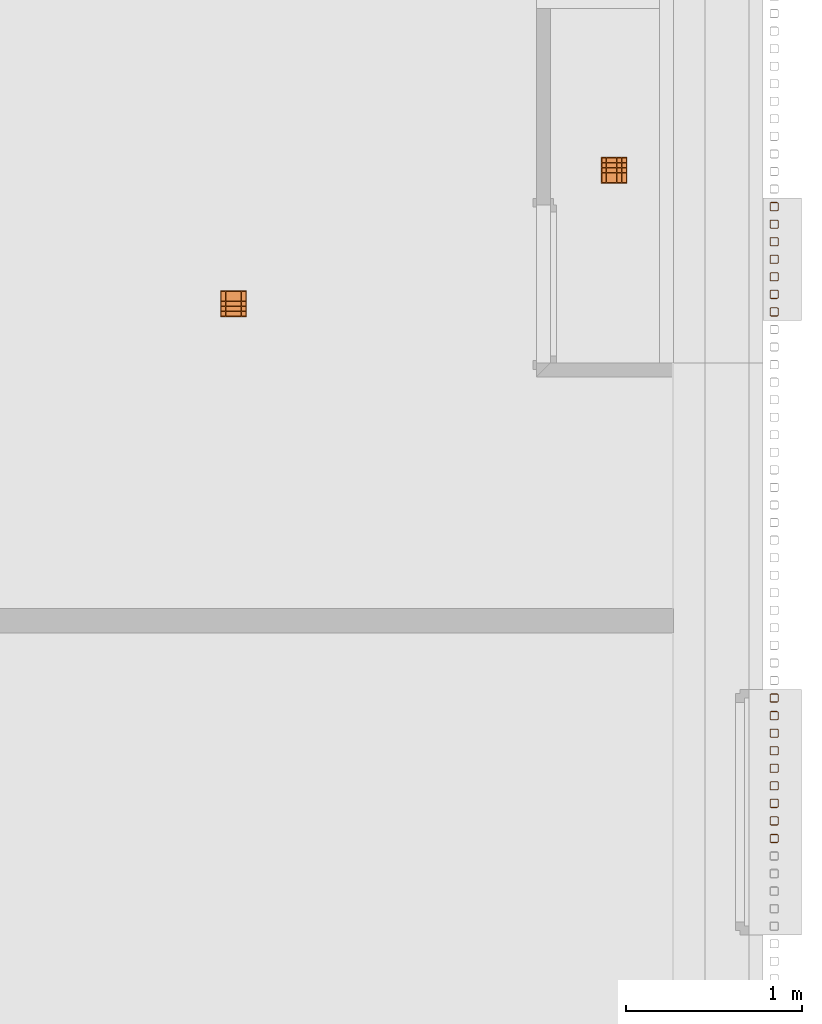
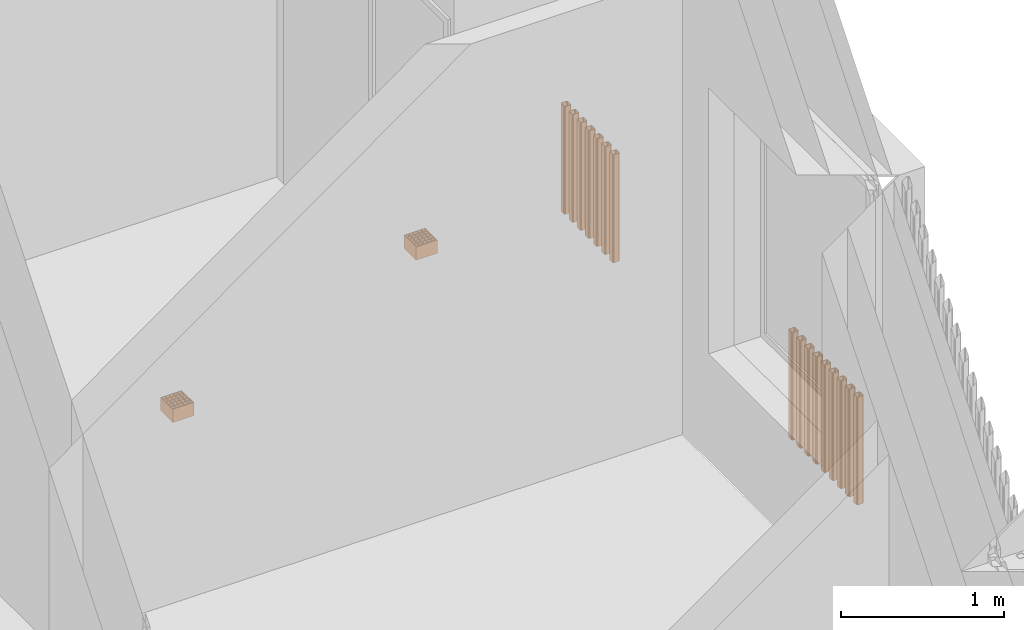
# One storey, part 100 of 112: 18 proxies.
"""IFC2X3 building model written with IfcOpenShell, lengths in millimetres."""

from ifc_helpers import new_model, entity, si_unit, converted_unit, derived_unit, money_unit, direction, frame, origin_with_axes, place, context, subcontext, project, spatial, faceted_brep, source, transform, mapped, material, type_object, element, save


model = new_model("IFC2X3")

# Units and contexts
model_context = context("Model", 3, precision=0.01, world=origin_with_axes(), true_north=direction((0.0, 1.0)))
body_context = subcontext(model_context, "Body", "Model", "MODEL_VIEW")
ifc_project = project(units=[si_unit("LENGTHUNIT", "METRE", prefix="MILLI"), si_unit("AREAUNIT", "SQUARE_METRE"), si_unit("VOLUMEUNIT", "CUBIC_METRE"), converted_unit("PLANEANGLEUNIT", "DEGREE", entity("IfcPlaneAngleMeasure", 0.0174532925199), si_unit("PLANEANGLEUNIT", "RADIAN"), dimensions=[0, 0, 0, 0, 0, 0, 0]), si_unit("SOLIDANGLEUNIT", "STERADIAN"), money_unit("EUR"), converted_unit("TIMEUNIT", "Year", entity("IfcTimeMeasure", 31556926.0), si_unit("TIMEUNIT", "SECOND"), dimensions=[0, 0, 1, 0, 0, 0, 0]), si_unit("MASSUNIT", "GRAM", prefix="KILO"), si_unit("THERMODYNAMICTEMPERATUREUNIT", "DEGREE_CELSIUS"), si_unit("LUMINOUSINTENSITYUNIT", "LUMEN"), si_unit("ENERGYUNIT", "JOULE", prefix="MEGA"), derived_unit("THERMALCONDUCTANCEUNIT", [(si_unit("POWERUNIT", "WATT"), 1), (si_unit("LENGTHUNIT", "METRE"), -1), (si_unit("THERMODYNAMICTEMPERATUREUNIT", "KELVIN"), -1)]), derived_unit("SPECIFICHEATCAPACITYUNIT", [(si_unit("ENERGYUNIT", "JOULE"), 1), (si_unit("MASSUNIT", "GRAM", prefix="KILO"), -1), (si_unit("THERMODYNAMICTEMPERATUREUNIT", "KELVIN"), -1)]), derived_unit("MASSDENSITYUNIT", [(si_unit("MASSUNIT", "GRAM", prefix="KILO"), 1), (si_unit("VOLUMEUNIT", "CUBIC_METRE"), -1)])], contexts=[model_context])

# Site, building, storey
site_placement = place(None, origin_with_axes())
site = spatial("IfcSite", under=ifc_project, at=site_placement, Name="Politse- ja Piirivalveameti ning Päästeameti ühishoone", CompositionType="ELEMENT")
building_placement = place(site_placement, origin_with_axes())
building = spatial("IfcBuilding", under=site, at=building_placement, Name="Politse- ja Piirivalveameti ning Päästeameti ühishoone", CompositionType="ELEMENT")
storey_placement = place(building_placement, origin_with_axes())
storey = spatial("IfcBuildingStorey", under=building, at=storey_placement, Name="Esimene korrus", CompositionType="ELEMENT", Elevation=0.0)

# Proxies
building_element_proxy_type_1 = type_object("IfcBuildingElementProxyType", Name="Grid 23", PredefinedType="NOTDEFINED")
shared_shape_1 = source(origin_with_axes(), body_context, "Body", "Brep", [
    faceted_brep([(0.0, 0.0, 0.0), (5.0, 5.0, 0.0), (5.0, 5.0, 100.0), (0.0, 0.0, 100.0), (0.0, 150.0, 0.0), (5.0, 145.0, 0.0), (5.0, 119.5, 0.0), (5.0, 117.5, 0.0), (5.0, 90.5, 0.0), (5.0, 88.5, 0.0), (5.0, 61.5, 0.0), (5.0, 59.5, 0.0), (5.0, 32.5, 0.0), (5.0, 30.5, 0.0), (5.0, 30.5, 100.0), (5.0, 32.5, 100.0), (5.0, 59.5, 100.0), (5.0, 61.5, 100.0), (5.0, 88.5, 100.0), (5.0, 90.5, 100.0), (5.0, 117.5, 100.0), (5.0, 119.5, 100.0), (5.0, 145.0, 100.0), (0.0, 150.0, 100.0)], [[[0, 1, 2, 3]], [[0, 4, 5, 6, 7, 8, 9, 10, 11, 12, 13, 1]], [[1, 13, 14, 2]], [[3, 2, 14, 15, 16, 17, 18, 19, 20, 21, 22, 23]], [[4, 0, 3, 23]], [[5, 4, 23, 22]], [[6, 5, 22, 21]], [[7, 6, 21, 20]], [[8, 7, 20, 19]], [[9, 8, 19, 18]], [[10, 9, 18, 17]], [[11, 10, 17, 16]], [[12, 11, 16, 15]], [[13, 12, 15, 14]]]),
    faceted_brep([(150.0, 150.0, 0.0), (145.0, 145.0, 0.0), (145.0, 145.0, 100.0), (150.0, 150.0, 100.0), (150.0, 0.0, 0.0), (145.0, 5.0, 0.0), (145.0, 30.5, 0.0), (145.0, 32.5, 0.0), (145.0, 59.5, 0.0), (145.0, 61.5, 0.0), (145.0, 88.5, 0.0), (145.0, 90.5, 0.0), (145.0, 117.5, 0.0), (145.0, 119.5, 0.0), (145.0, 119.5, 100.0), (145.0, 117.5, 100.0), (145.0, 90.5, 100.0), (145.0, 88.5, 100.0), (145.0, 61.5, 100.0), (145.0, 59.5, 100.0), (145.0, 32.5, 100.0), (145.0, 30.5, 100.0), (145.0, 5.0, 100.0), (150.0, 0.0, 100.0)], [[[0, 1, 2, 3]], [[0, 4, 5, 6, 7, 8, 9, 10, 11, 12, 13, 1]], [[1, 13, 14, 2]], [[3, 2, 14, 15, 16, 17, 18, 19, 20, 21, 22, 23]], [[4, 0, 3, 23]], [[5, 4, 23, 22]], [[6, 5, 22, 21]], [[7, 6, 21, 20]], [[8, 7, 20, 19]], [[9, 8, 19, 18]], [[10, 9, 18, 17]], [[11, 10, 17, 16]], [[12, 11, 16, 15]], [[13, 12, 15, 14]]]),
    faceted_brep([(150.0, 0.0, 0.0), (145.0, 5.0, 0.0), (145.0, 5.0, 100.0), (150.0, 0.0, 100.0), (0.0, 0.0, 0.0), (5.0, 5.0, 0.0), (30.5, 5.0, 0.0), (32.5, 5.0, 0.0), (59.5, 5.0, 0.0), (61.5, 5.0, 0.0), (88.5, 5.0, 0.0), (90.5, 5.0, 0.0), (117.5, 5.0, 0.0), (119.5, 5.0, 0.0), (119.5, 5.0, 100.0), (117.5, 5.0, 100.0), (90.5, 5.0, 100.0), (88.5, 5.0, 100.0), (61.5, 5.0, 100.0), (59.5, 5.0, 100.0), (32.5, 5.0, 100.0), (30.5, 5.0, 100.0), (5.0, 5.0, 100.0), (0.0, 0.0, 100.0)], [[[0, 1, 2, 3]], [[0, 4, 5, 6, 7, 8, 9, 10, 11, 12, 13, 1]], [[1, 13, 14, 2]], [[3, 2, 14, 15, 16, 17, 18, 19, 20, 21, 22, 23]], [[4, 0, 3, 23]], [[5, 4, 23, 22]], [[6, 5, 22, 21]], [[7, 6, 21, 20]], [[8, 7, 20, 19]], [[9, 8, 19, 18]], [[10, 9, 18, 17]], [[11, 10, 17, 16]], [[12, 11, 16, 15]], [[13, 12, 15, 14]]]),
    faceted_brep([(0.0, 150.0, 0.0), (5.0, 145.0, 0.0), (5.0, 145.0, 100.0), (0.0, 150.0, 100.0), (150.0, 150.0, 0.0), (145.0, 145.0, 0.0), (119.5, 145.0, 0.0), (117.5, 145.0, 0.0), (90.5, 145.0, 0.0), (88.5, 145.0, 0.0), (61.5, 145.0, 0.0), (59.5, 145.0, 0.0), (32.5, 145.0, 0.0), (30.5, 145.0, 0.0), (30.5, 145.0, 100.0), (32.5, 145.0, 100.0), (59.5, 145.0, 100.0), (61.5, 145.0, 100.0), (88.5, 145.0, 100.0), (90.5, 145.0, 100.0), (117.5, 145.0, 100.0), (119.5, 145.0, 100.0), (145.0, 145.0, 100.0), (150.0, 150.0, 100.0)], [[[0, 1, 2, 3]], [[0, 4, 5, 6, 7, 8, 9, 10, 11, 12, 13, 1]], [[1, 13, 14, 2]], [[3, 2, 14, 15, 16, 17, 18, 19, 20, 21, 22, 23]], [[4, 0, 3, 23]], [[5, 4, 23, 22]], [[6, 5, 22, 21]], [[7, 6, 21, 20]], [[8, 7, 20, 19]], [[9, 8, 19, 18]], [[10, 9, 18, 17]], [[11, 10, 17, 16]], [[12, 11, 16, 15]], [[13, 12, 15, 14]]]),
    faceted_brep([(30.5, 5.0, 0.0), (32.5, 5.0, 0.0), (32.5, 5.0, 100.0), (30.5, 5.0, 100.0), (30.5, 30.5, 0.0), (30.5, 32.5, 0.0), (30.5, 59.5, 0.0), (30.5, 61.5, 0.0), (30.5, 88.5, 0.0), (30.5, 90.5, 0.0), (30.5, 117.5, 0.0), (30.5, 119.5, 0.0), (30.5, 145.0, 0.0), (32.5, 145.0, 0.0), (32.5, 119.5, 0.0), (32.5, 117.5, 0.0), (32.5, 90.5, 0.0), (32.5, 88.5, 0.0), (32.5, 61.5, 0.0), (32.5, 59.5, 0.0), (32.5, 32.5, 0.0), (32.5, 30.5, 0.0), (32.5, 30.5, 100.0), (32.5, 32.5, 100.0), (32.5, 59.5, 100.0), (32.5, 61.5, 100.0), (32.5, 88.5, 100.0), (32.5, 90.5, 100.0), (32.5, 117.5, 100.0), (32.5, 119.5, 100.0), (32.5, 145.0, 100.0), (30.5, 145.0, 100.0), (30.5, 119.5, 100.0), (30.5, 117.5, 100.0), (30.5, 90.5, 100.0), (30.5, 88.5, 100.0), (30.5, 61.5, 100.0), (30.5, 59.5, 100.0), (30.5, 32.5, 100.0), (30.5, 30.5, 100.0)], [[[0, 1, 2, 3]], [[0, 4, 5, 6, 7, 8, 9, 10, 11, 12, 13, 14, 15, 16, 17, 18, 19, 20, 21, 1]], [[1, 21, 22, 2]], [[3, 2, 22, 23, 24, 25, 26, 27, 28, 29, 30, 31, 32, 33, 34, 35, 36, 37, 38, 39]], [[4, 0, 3, 39]], [[5, 4, 39, 38]], [[6, 5, 38, 37]], [[7, 6, 37, 36]], [[8, 7, 36, 35]], [[9, 8, 35, 34]], [[10, 9, 34, 33]], [[11, 10, 33, 32]], [[12, 11, 32, 31]], [[13, 12, 31, 30]], [[14, 13, 30, 29]], [[15, 14, 29, 28]], [[16, 15, 28, 27]], [[17, 16, 27, 26]], [[18, 17, 26, 25]], [[19, 18, 25, 24]], [[20, 19, 24, 23]], [[21, 20, 23, 22]]]),
    faceted_brep([(59.5, 5.0, 0.0), (61.5, 5.0, 0.0), (61.5, 5.0, 100.0), (59.5, 5.0, 100.0), (59.5, 30.5, 0.0), (59.5, 32.5, 0.0), (59.5, 59.5, 0.0), (59.5, 61.5, 0.0), (59.5, 88.5, 0.0), (59.5, 90.5, 0.0), (59.5, 117.5, 0.0), (59.5, 119.5, 0.0), (59.5, 145.0, 0.0), (61.5, 145.0, 0.0), (61.5, 119.5, 0.0), (61.5, 117.5, 0.0), (61.5, 90.5, 0.0), (61.5, 88.5, 0.0), (61.5, 61.5, 0.0), (61.5, 59.5, 0.0), (61.5, 32.5, 0.0), (61.5, 30.5, 0.0), (61.5, 30.5, 100.0), (61.5, 32.5, 100.0), (61.5, 59.5, 100.0), (61.5, 61.5, 100.0), (61.5, 88.5, 100.0), (61.5, 90.5, 100.0), (61.5, 117.5, 100.0), (61.5, 119.5, 100.0), (61.5, 145.0, 100.0), (59.5, 145.0, 100.0), (59.5, 119.5, 100.0), (59.5, 117.5, 100.0), (59.5, 90.5, 100.0), (59.5, 88.5, 100.0), (59.5, 61.5, 100.0), (59.5, 59.5, 100.0), (59.5, 32.5, 100.0), (59.5, 30.5, 100.0)], [[[0, 1, 2, 3]], [[0, 4, 5, 6, 7, 8, 9, 10, 11, 12, 13, 14, 15, 16, 17, 18, 19, 20, 21, 1]], [[1, 21, 22, 2]], [[3, 2, 22, 23, 24, 25, 26, 27, 28, 29, 30, 31, 32, 33, 34, 35, 36, 37, 38, 39]], [[4, 0, 3, 39]], [[5, 4, 39, 38]], [[6, 5, 38, 37]], [[7, 6, 37, 36]], [[8, 7, 36, 35]], [[9, 8, 35, 34]], [[10, 9, 34, 33]], [[11, 10, 33, 32]], [[12, 11, 32, 31]], [[13, 12, 31, 30]], [[14, 13, 30, 29]], [[15, 14, 29, 28]], [[16, 15, 28, 27]], [[17, 16, 27, 26]], [[18, 17, 26, 25]], [[19, 18, 25, 24]], [[20, 19, 24, 23]], [[21, 20, 23, 22]]]),
    faceted_brep([(88.5, 5.0, 0.0), (90.5, 5.0, 0.0), (90.5, 5.0, 100.0), (88.5, 5.0, 100.0), (88.5, 30.5, 0.0), (88.5, 32.5, 0.0), (88.5, 59.5, 0.0), (88.5, 61.5, 0.0), (88.5, 88.5, 0.0), (88.5, 90.5, 0.0), (88.5, 117.5, 0.0), (88.5, 119.5, 0.0), (88.5, 145.0, 0.0), (90.5, 145.0, 0.0), (90.5, 119.5, 0.0), (90.5, 117.5, 0.0), (90.5, 90.5, 0.0), (90.5, 88.5, 0.0), (90.5, 61.5, 0.0), (90.5, 59.5, 0.0), (90.5, 32.5, 0.0), (90.5, 30.5, 0.0), (90.5, 30.5, 100.0), (90.5, 32.5, 100.0), (90.5, 59.5, 100.0), (90.5, 61.5, 100.0), (90.5, 88.5, 100.0), (90.5, 90.5, 100.0), (90.5, 117.5, 100.0), (90.5, 119.5, 100.0), (90.5, 145.0, 100.0), (88.5, 145.0, 100.0), (88.5, 119.5, 100.0), (88.5, 117.5, 100.0), (88.5, 90.5, 100.0), (88.5, 88.5, 100.0), (88.5, 61.5, 100.0), (88.5, 59.5, 100.0), (88.5, 32.5, 100.0), (88.5, 30.5, 100.0)], [[[0, 1, 2, 3]], [[0, 4, 5, 6, 7, 8, 9, 10, 11, 12, 13, 14, 15, 16, 17, 18, 19, 20, 21, 1]], [[1, 21, 22, 2]], [[3, 2, 22, 23, 24, 25, 26, 27, 28, 29, 30, 31, 32, 33, 34, 35, 36, 37, 38, 39]], [[4, 0, 3, 39]], [[5, 4, 39, 38]], [[6, 5, 38, 37]], [[7, 6, 37, 36]], [[8, 7, 36, 35]], [[9, 8, 35, 34]], [[10, 9, 34, 33]], [[11, 10, 33, 32]], [[12, 11, 32, 31]], [[13, 12, 31, 30]], [[14, 13, 30, 29]], [[15, 14, 29, 28]], [[16, 15, 28, 27]], [[17, 16, 27, 26]], [[18, 17, 26, 25]], [[19, 18, 25, 24]], [[20, 19, 24, 23]], [[21, 20, 23, 22]]]),
    faceted_brep([(117.5, 5.0, 0.0), (119.5, 5.0, 0.0), (119.5, 5.0, 100.0), (117.5, 5.0, 100.0), (117.5, 30.5, 0.0), (117.5, 32.5, 0.0), (117.5, 59.5, 0.0), (117.5, 61.5, 0.0), (117.5, 88.5, 0.0), (117.5, 90.5, 0.0), (117.5, 117.5, 0.0), (117.5, 119.5, 0.0), (117.5, 145.0, 0.0), (119.5, 145.0, 0.0), (119.5, 119.5, 0.0), (119.5, 117.5, 0.0), (119.5, 90.5, 0.0), (119.5, 88.5, 0.0), (119.5, 61.5, 0.0), (119.5, 59.5, 0.0), (119.5, 32.5, 0.0), (119.5, 30.5, 0.0), (119.5, 30.5, 100.0), (119.5, 32.5, 100.0), (119.5, 59.5, 100.0), (119.5, 61.5, 100.0), (119.5, 88.5, 100.0), (119.5, 90.5, 100.0), (119.5, 117.5, 100.0), (119.5, 119.5, 100.0), (119.5, 145.0, 100.0), (117.5, 145.0, 100.0), (117.5, 119.5, 100.0), (117.5, 117.5, 100.0), (117.5, 90.5, 100.0), (117.5, 88.5, 100.0), (117.5, 61.5, 100.0), (117.5, 59.5, 100.0), (117.5, 32.5, 100.0), (117.5, 30.5, 100.0)], [[[0, 1, 2, 3]], [[0, 4, 5, 6, 7, 8, 9, 10, 11, 12, 13, 14, 15, 16, 17, 18, 19, 20, 21, 1]], [[1, 21, 22, 2]], [[3, 2, 22, 23, 24, 25, 26, 27, 28, 29, 30, 31, 32, 33, 34, 35, 36, 37, 38, 39]], [[4, 0, 3, 39]], [[5, 4, 39, 38]], [[6, 5, 38, 37]], [[7, 6, 37, 36]], [[8, 7, 36, 35]], [[9, 8, 35, 34]], [[10, 9, 34, 33]], [[11, 10, 33, 32]], [[12, 11, 32, 31]], [[13, 12, 31, 30]], [[14, 13, 30, 29]], [[15, 14, 29, 28]], [[16, 15, 28, 27]], [[17, 16, 27, 26]], [[18, 17, 26, 25]], [[19, 18, 25, 24]], [[20, 19, 24, 23]], [[21, 20, 23, 22]]]),
    faceted_brep([(30.5, 30.5, 0.0), (30.5, 32.5, 0.0), (30.5, 32.5, 100.0), (30.5, 30.5, 100.0), (5.0, 30.5, 0.0), (5.0, 32.5, 0.0), (5.0, 32.5, 100.0), (5.0, 30.5, 100.0)], [[[0, 1, 2, 3]], [[0, 4, 5, 1]], [[1, 5, 6, 2]], [[3, 2, 6, 7]], [[4, 0, 3, 7]], [[5, 4, 7, 6]]]),
    faceted_brep([(30.5, 59.5, 0.0), (30.5, 61.5, 0.0), (30.5, 61.5, 100.0), (30.5, 59.5, 100.0), (5.0, 59.5, 0.0), (5.0, 61.5, 0.0), (5.0, 61.5, 100.0), (5.0, 59.5, 100.0)], [[[0, 1, 2, 3]], [[0, 4, 5, 1]], [[1, 5, 6, 2]], [[3, 2, 6, 7]], [[4, 0, 3, 7]], [[5, 4, 7, 6]]]),
    faceted_brep([(30.5, 88.5, 0.0), (30.5, 90.5, 0.0), (30.5, 90.5, 100.0), (30.5, 88.5, 100.0), (5.0, 88.5, 0.0), (5.0, 90.5, 0.0), (5.0, 90.5, 100.0), (5.0, 88.5, 100.0)], [[[0, 1, 2, 3]], [[0, 4, 5, 1]], [[1, 5, 6, 2]], [[3, 2, 6, 7]], [[4, 0, 3, 7]], [[5, 4, 7, 6]]]),
    faceted_brep([(30.5, 117.5, 0.0), (30.5, 119.5, 0.0), (30.5, 119.5, 100.0), (30.5, 117.5, 100.0), (5.0, 117.5, 0.0), (5.0, 119.5, 0.0), (5.0, 119.5, 100.0), (5.0, 117.5, 100.0)], [[[0, 1, 2, 3]], [[0, 4, 5, 1]], [[1, 5, 6, 2]], [[3, 2, 6, 7]], [[4, 0, 3, 7]], [[5, 4, 7, 6]]]),
    faceted_brep([(59.5, 30.5, 0.0), (59.5, 32.5, 0.0), (59.5, 32.5, 100.0), (59.5, 30.5, 100.0), (32.5, 30.5, 0.0), (32.5, 32.5, 0.0), (32.5, 32.5, 100.0), (32.5, 30.5, 100.0)], [[[0, 1, 2, 3]], [[0, 4, 5, 1]], [[1, 5, 6, 2]], [[3, 2, 6, 7]], [[4, 0, 3, 7]], [[5, 4, 7, 6]]]),
    faceted_brep([(59.5, 59.5, 0.0), (59.5, 61.5, 0.0), (59.5, 61.5, 100.0), (59.5, 59.5, 100.0), (32.5, 59.5, 0.0), (32.5, 61.5, 0.0), (32.5, 61.5, 100.0), (32.5, 59.5, 100.0)], [[[0, 1, 2, 3]], [[0, 4, 5, 1]], [[1, 5, 6, 2]], [[3, 2, 6, 7]], [[4, 0, 3, 7]], [[5, 4, 7, 6]]]),
    faceted_brep([(59.5, 88.5, 0.0), (59.5, 90.5, 0.0), (59.5, 90.5, 100.0), (59.5, 88.5, 100.0), (32.5, 88.5, 0.0), (32.5, 90.5, 0.0), (32.5, 90.5, 100.0), (32.5, 88.5, 100.0)], [[[0, 1, 2, 3]], [[0, 4, 5, 1]], [[1, 5, 6, 2]], [[3, 2, 6, 7]], [[4, 0, 3, 7]], [[5, 4, 7, 6]]]),
    faceted_brep([(59.5, 117.5, 0.0), (59.5, 119.5, 0.0), (59.5, 119.5, 100.0), (59.5, 117.5, 100.0), (32.5, 117.5, 0.0), (32.5, 119.5, 0.0), (32.5, 119.5, 100.0), (32.5, 117.5, 100.0)], [[[0, 1, 2, 3]], [[0, 4, 5, 1]], [[1, 5, 6, 2]], [[3, 2, 6, 7]], [[4, 0, 3, 7]], [[5, 4, 7, 6]]]),
    faceted_brep([(88.5, 30.5, 0.0), (88.5, 32.5, 0.0), (88.5, 32.5, 100.0), (88.5, 30.5, 100.0), (61.5, 30.5, 0.0), (61.5, 32.5, 0.0), (61.5, 32.5, 100.0), (61.5, 30.5, 100.0)], [[[0, 1, 2, 3]], [[0, 4, 5, 1]], [[1, 5, 6, 2]], [[3, 2, 6, 7]], [[4, 0, 3, 7]], [[5, 4, 7, 6]]]),
    faceted_brep([(88.5, 59.5, 0.0), (88.5, 61.5, 0.0), (88.5, 61.5, 100.0), (88.5, 59.5, 100.0), (61.5, 59.5, 0.0), (61.5, 61.5, 0.0), (61.5, 61.5, 100.0), (61.5, 59.5, 100.0)], [[[0, 1, 2, 3]], [[0, 4, 5, 1]], [[1, 5, 6, 2]], [[3, 2, 6, 7]], [[4, 0, 3, 7]], [[5, 4, 7, 6]]]),
    faceted_brep([(88.5, 88.5, 0.0), (88.5, 90.5, 0.0), (88.5, 90.5, 100.0), (88.5, 88.5, 100.0), (61.5, 88.5, 0.0), (61.5, 90.5, 0.0), (61.5, 90.5, 100.0), (61.5, 88.5, 100.0)], [[[0, 1, 2, 3]], [[0, 4, 5, 1]], [[1, 5, 6, 2]], [[3, 2, 6, 7]], [[4, 0, 3, 7]], [[5, 4, 7, 6]]]),
    faceted_brep([(88.5, 117.5, 0.0), (88.5, 119.5, 0.0), (88.5, 119.5, 100.0), (88.5, 117.5, 100.0), (61.5, 117.5, 0.0), (61.5, 119.5, 0.0), (61.5, 119.5, 100.0), (61.5, 117.5, 100.0)], [[[0, 1, 2, 3]], [[0, 4, 5, 1]], [[1, 5, 6, 2]], [[3, 2, 6, 7]], [[4, 0, 3, 7]], [[5, 4, 7, 6]]]),
    faceted_brep([(117.5, 30.5, 0.0), (117.5, 32.5, 0.0), (117.5, 32.5, 100.0), (117.5, 30.5, 100.0), (90.5, 30.5, 0.0), (90.5, 32.5, 0.0), (90.5, 32.5, 100.0), (90.5, 30.5, 100.0)], [[[0, 1, 2, 3]], [[0, 4, 5, 1]], [[1, 5, 6, 2]], [[3, 2, 6, 7]], [[4, 0, 3, 7]], [[5, 4, 7, 6]]]),
    faceted_brep([(117.5, 59.5, 0.0), (117.5, 61.5, 0.0), (117.5, 61.5, 100.0), (117.5, 59.5, 100.0), (90.5, 59.5, 0.0), (90.5, 61.5, 0.0), (90.5, 61.5, 100.0), (90.5, 59.5, 100.0)], [[[0, 1, 2, 3]], [[0, 4, 5, 1]], [[1, 5, 6, 2]], [[3, 2, 6, 7]], [[4, 0, 3, 7]], [[5, 4, 7, 6]]]),
    faceted_brep([(117.5, 88.5, 0.0), (117.5, 90.5, 0.0), (117.5, 90.5, 100.0), (117.5, 88.5, 100.0), (90.5, 88.5, 0.0), (90.5, 90.5, 0.0), (90.5, 90.5, 100.0), (90.5, 88.5, 100.0)], [[[0, 1, 2, 3]], [[0, 4, 5, 1]], [[1, 5, 6, 2]], [[3, 2, 6, 7]], [[4, 0, 3, 7]], [[5, 4, 7, 6]]]),
    faceted_brep([(117.5, 117.5, 0.0), (117.5, 119.5, 0.0), (117.5, 119.5, 100.0), (117.5, 117.5, 100.0), (90.5, 117.5, 0.0), (90.5, 119.5, 0.0), (90.5, 119.5, 100.0), (90.5, 117.5, 100.0)], [[[0, 1, 2, 3]], [[0, 4, 5, 1]], [[1, 5, 6, 2]], [[3, 2, 6, 7]], [[4, 0, 3, 7]], [[5, 4, 7, 6]]]),
    faceted_brep([(145.0, 30.5, 0.0), (145.0, 32.5, 0.0), (145.0, 32.5, 100.0), (145.0, 30.5, 100.0), (119.5, 30.5, 0.0), (119.5, 32.5, 0.0), (119.5, 32.5, 100.0), (119.5, 30.5, 100.0)], [[[0, 1, 2, 3]], [[0, 4, 5, 1]], [[1, 5, 6, 2]], [[3, 2, 6, 7]], [[4, 0, 3, 7]], [[5, 4, 7, 6]]]),
    faceted_brep([(145.0, 59.5, 0.0), (145.0, 61.5, 0.0), (145.0, 61.5, 100.0), (145.0, 59.5, 100.0), (119.5, 59.5, 0.0), (119.5, 61.5, 0.0), (119.5, 61.5, 100.0), (119.5, 59.5, 100.0)], [[[0, 1, 2, 3]], [[0, 4, 5, 1]], [[1, 5, 6, 2]], [[3, 2, 6, 7]], [[4, 0, 3, 7]], [[5, 4, 7, 6]]]),
    faceted_brep([(145.0, 88.5, 0.0), (145.0, 90.5, 0.0), (145.0, 90.5, 100.0), (145.0, 88.5, 100.0), (119.5, 88.5, 0.0), (119.5, 90.5, 0.0), (119.5, 90.5, 100.0), (119.5, 88.5, 100.0)], [[[0, 1, 2, 3]], [[0, 4, 5, 1]], [[1, 5, 6, 2]], [[3, 2, 6, 7]], [[4, 0, 3, 7]], [[5, 4, 7, 6]]]),
    faceted_brep([(145.0, 117.5, 0.0), (145.0, 119.5, 0.0), (145.0, 119.5, 100.0), (145.0, 117.5, 100.0), (119.5, 117.5, 0.0), (119.5, 119.5, 0.0), (119.5, 119.5, 100.0), (119.5, 117.5, 100.0)], [[[0, 1, 2, 3]], [[0, 4, 5, 1]], [[1, 5, 6, 2]], [[3, 2, 6, 7]], [[4, 0, 3, 7]], [[5, 4, 7, 6]]]),
    faceted_brep([(5.0, 5.0, 43.65), (30.5, 5.0, 43.65), (30.5, 5.0, 56.35), (5.0, 5.0, 56.35), (5.0, 30.5, 43.65), (30.5, 30.5, 43.65), (30.5, 30.5, 56.35), (5.0, 30.5, 56.35)], [[[0, 1, 2, 3]], [[0, 4, 5, 1]], [[1, 5, 6, 2]], [[3, 2, 6, 7]], [[4, 0, 3, 7]], [[5, 4, 7, 6]]]),
    faceted_brep([(5.0, 32.5, 43.65), (30.5, 32.5, 43.65), (30.5, 32.5, 56.35), (5.0, 32.5, 56.35), (5.0, 59.5, 43.65), (30.5, 59.5, 43.65), (30.5, 59.5, 56.35), (5.0, 59.5, 56.35)], [[[0, 1, 2, 3]], [[0, 4, 5, 1]], [[1, 5, 6, 2]], [[3, 2, 6, 7]], [[4, 0, 3, 7]], [[5, 4, 7, 6]]]),
    faceted_brep([(5.0, 61.5, 43.65), (30.5, 61.5, 43.65), (30.5, 61.5, 56.35), (5.0, 61.5, 56.35), (5.0, 88.5, 43.65), (30.5, 88.5, 43.65), (30.5, 88.5, 56.35), (5.0, 88.5, 56.35)], [[[0, 1, 2, 3]], [[0, 4, 5, 1]], [[1, 5, 6, 2]], [[3, 2, 6, 7]], [[4, 0, 3, 7]], [[5, 4, 7, 6]]]),
    faceted_brep([(5.0, 90.5, 43.65), (30.5, 90.5, 43.65), (30.5, 90.5, 56.35), (5.0, 90.5, 56.35), (5.0, 117.5, 43.65), (30.5, 117.5, 43.65), (30.5, 117.5, 56.35), (5.0, 117.5, 56.35)], [[[0, 1, 2, 3]], [[0, 4, 5, 1]], [[1, 5, 6, 2]], [[3, 2, 6, 7]], [[4, 0, 3, 7]], [[5, 4, 7, 6]]]),
    faceted_brep([(5.0, 119.5, 43.65), (30.5, 119.5, 43.65), (30.5, 119.5, 56.35), (5.0, 119.5, 56.35), (5.0, 145.0, 43.65), (30.5, 145.0, 43.65), (30.5, 145.0, 56.35), (5.0, 145.0, 56.35)], [[[0, 1, 2, 3]], [[0, 4, 5, 1]], [[1, 5, 6, 2]], [[3, 2, 6, 7]], [[4, 0, 3, 7]], [[5, 4, 7, 6]]]),
    faceted_brep([(32.5, 5.0, 43.65), (59.5, 5.0, 43.65), (59.5, 5.0, 56.35), (32.5, 5.0, 56.35), (32.5, 30.5, 43.65), (59.5, 30.5, 43.65), (59.5, 30.5, 56.35), (32.5, 30.5, 56.35)], [[[0, 1, 2, 3]], [[0, 4, 5, 1]], [[1, 5, 6, 2]], [[3, 2, 6, 7]], [[4, 0, 3, 7]], [[5, 4, 7, 6]]]),
    faceted_brep([(32.5, 32.5, 43.65), (59.5, 32.5, 43.65), (59.5, 32.5, 56.35), (32.5, 32.5, 56.35), (32.5, 59.5, 43.65), (59.5, 59.5, 43.65), (59.5, 59.5, 56.35), (32.5, 59.5, 56.35)], [[[0, 1, 2, 3]], [[0, 4, 5, 1]], [[1, 5, 6, 2]], [[3, 2, 6, 7]], [[4, 0, 3, 7]], [[5, 4, 7, 6]]]),
    faceted_brep([(32.5, 61.5, 43.65), (59.5, 61.5, 43.65), (59.5, 61.5, 56.35), (32.5, 61.5, 56.35), (32.5, 88.5, 43.65), (59.5, 88.5, 43.65), (59.5, 88.5, 56.35), (32.5, 88.5, 56.35)], [[[0, 1, 2, 3]], [[0, 4, 5, 1]], [[1, 5, 6, 2]], [[3, 2, 6, 7]], [[4, 0, 3, 7]], [[5, 4, 7, 6]]]),
    faceted_brep([(32.5, 90.5, 43.65), (59.5, 90.5, 43.65), (59.5, 90.5, 56.35), (32.5, 90.5, 56.35), (32.5, 117.5, 43.65), (59.5, 117.5, 43.65), (59.5, 117.5, 56.35), (32.5, 117.5, 56.35)], [[[0, 1, 2, 3]], [[0, 4, 5, 1]], [[1, 5, 6, 2]], [[3, 2, 6, 7]], [[4, 0, 3, 7]], [[5, 4, 7, 6]]]),
    faceted_brep([(32.5, 119.5, 43.65), (59.5, 119.5, 43.65), (59.5, 119.5, 56.35), (32.5, 119.5, 56.35), (32.5, 145.0, 43.65), (59.5, 145.0, 43.65), (59.5, 145.0, 56.35), (32.5, 145.0, 56.35)], [[[0, 1, 2, 3]], [[0, 4, 5, 1]], [[1, 5, 6, 2]], [[3, 2, 6, 7]], [[4, 0, 3, 7]], [[5, 4, 7, 6]]]),
    faceted_brep([(61.5, 5.0, 43.65), (88.5, 5.0, 43.65), (88.5, 5.0, 56.35), (61.5, 5.0, 56.35), (61.5, 30.5, 43.65), (88.5, 30.5, 43.65), (88.5, 30.5, 56.35), (61.5, 30.5, 56.35)], [[[0, 1, 2, 3]], [[0, 4, 5, 1]], [[1, 5, 6, 2]], [[3, 2, 6, 7]], [[4, 0, 3, 7]], [[5, 4, 7, 6]]]),
    faceted_brep([(61.5, 32.5, 43.65), (88.5, 32.5, 43.65), (88.5, 32.5, 56.35), (61.5, 32.5, 56.35), (61.5, 59.5, 43.65), (88.5, 59.5, 43.65), (88.5, 59.5, 56.35), (61.5, 59.5, 56.35)], [[[0, 1, 2, 3]], [[0, 4, 5, 1]], [[1, 5, 6, 2]], [[3, 2, 6, 7]], [[4, 0, 3, 7]], [[5, 4, 7, 6]]]),
    faceted_brep([(61.5, 61.5, 43.65), (88.5, 61.5, 43.65), (88.5, 61.5, 56.35), (61.5, 61.5, 56.35), (61.5, 88.5, 43.65), (88.5, 88.5, 43.65), (88.5, 88.5, 56.35), (61.5, 88.5, 56.35)], [[[0, 1, 2, 3]], [[0, 4, 5, 1]], [[1, 5, 6, 2]], [[3, 2, 6, 7]], [[4, 0, 3, 7]], [[5, 4, 7, 6]]]),
    faceted_brep([(61.5, 90.5, 43.65), (88.5, 90.5, 43.65), (88.5, 90.5, 56.35), (61.5, 90.5, 56.35), (61.5, 117.5, 43.65), (88.5, 117.5, 43.65), (88.5, 117.5, 56.35), (61.5, 117.5, 56.35)], [[[0, 1, 2, 3]], [[0, 4, 5, 1]], [[1, 5, 6, 2]], [[3, 2, 6, 7]], [[4, 0, 3, 7]], [[5, 4, 7, 6]]]),
    faceted_brep([(61.5, 119.5, 43.65), (88.5, 119.5, 43.65), (88.5, 119.5, 56.35), (61.5, 119.5, 56.35), (61.5, 145.0, 43.65), (88.5, 145.0, 43.65), (88.5, 145.0, 56.35), (61.5, 145.0, 56.35)], [[[0, 1, 2, 3]], [[0, 4, 5, 1]], [[1, 5, 6, 2]], [[3, 2, 6, 7]], [[4, 0, 3, 7]], [[5, 4, 7, 6]]]),
    faceted_brep([(90.5, 5.0, 43.65), (117.5, 5.0, 43.65), (117.5, 5.0, 56.35), (90.5, 5.0, 56.35), (90.5, 30.5, 43.65), (117.5, 30.5, 43.65), (117.5, 30.5, 56.35), (90.5, 30.5, 56.35)], [[[0, 1, 2, 3]], [[0, 4, 5, 1]], [[1, 5, 6, 2]], [[3, 2, 6, 7]], [[4, 0, 3, 7]], [[5, 4, 7, 6]]]),
    faceted_brep([(90.5, 32.5, 43.65), (117.5, 32.5, 43.65), (117.5, 32.5, 56.35), (90.5, 32.5, 56.35), (90.5, 59.5, 43.65), (117.5, 59.5, 43.65), (117.5, 59.5, 56.35), (90.5, 59.5, 56.35)], [[[0, 1, 2, 3]], [[0, 4, 5, 1]], [[1, 5, 6, 2]], [[3, 2, 6, 7]], [[4, 0, 3, 7]], [[5, 4, 7, 6]]]),
    faceted_brep([(90.5, 61.5, 43.65), (117.5, 61.5, 43.65), (117.5, 61.5, 56.35), (90.5, 61.5, 56.35), (90.5, 88.5, 43.65), (117.5, 88.5, 43.65), (117.5, 88.5, 56.35), (90.5, 88.5, 56.35)], [[[0, 1, 2, 3]], [[0, 4, 5, 1]], [[1, 5, 6, 2]], [[3, 2, 6, 7]], [[4, 0, 3, 7]], [[5, 4, 7, 6]]]),
    faceted_brep([(90.5, 90.5, 43.65), (117.5, 90.5, 43.65), (117.5, 90.5, 56.35), (90.5, 90.5, 56.35), (90.5, 117.5, 43.65), (117.5, 117.5, 43.65), (117.5, 117.5, 56.35), (90.5, 117.5, 56.35)], [[[0, 1, 2, 3]], [[0, 4, 5, 1]], [[1, 5, 6, 2]], [[3, 2, 6, 7]], [[4, 0, 3, 7]], [[5, 4, 7, 6]]]),
    faceted_brep([(90.5, 119.5, 43.65), (117.5, 119.5, 43.65), (117.5, 119.5, 56.35), (90.5, 119.5, 56.35), (90.5, 145.0, 43.65), (117.5, 145.0, 43.65), (117.5, 145.0, 56.35), (90.5, 145.0, 56.35)], [[[0, 1, 2, 3]], [[0, 4, 5, 1]], [[1, 5, 6, 2]], [[3, 2, 6, 7]], [[4, 0, 3, 7]], [[5, 4, 7, 6]]]),
    faceted_brep([(119.5, 5.0, 43.65), (145.0, 5.0, 43.65), (145.0, 5.0, 56.35), (119.5, 5.0, 56.35), (119.5, 30.5, 43.65), (145.0, 30.5, 43.65), (145.0, 30.5, 56.35), (119.5, 30.5, 56.35)], [[[0, 1, 2, 3]], [[0, 4, 5, 1]], [[1, 5, 6, 2]], [[3, 2, 6, 7]], [[4, 0, 3, 7]], [[5, 4, 7, 6]]]),
    faceted_brep([(119.5, 32.5, 43.65), (145.0, 32.5, 43.65), (145.0, 32.5, 56.35), (119.5, 32.5, 56.35), (119.5, 59.5, 43.65), (145.0, 59.5, 43.65), (145.0, 59.5, 56.35), (119.5, 59.5, 56.35)], [[[0, 1, 2, 3]], [[0, 4, 5, 1]], [[1, 5, 6, 2]], [[3, 2, 6, 7]], [[4, 0, 3, 7]], [[5, 4, 7, 6]]]),
    faceted_brep([(119.5, 61.5, 43.65), (145.0, 61.5, 43.65), (145.0, 61.5, 56.35), (119.5, 61.5, 56.35), (119.5, 88.5, 43.65), (145.0, 88.5, 43.65), (145.0, 88.5, 56.35), (119.5, 88.5, 56.35)], [[[0, 1, 2, 3]], [[0, 4, 5, 1]], [[1, 5, 6, 2]], [[3, 2, 6, 7]], [[4, 0, 3, 7]], [[5, 4, 7, 6]]]),
    faceted_brep([(119.5, 90.5, 43.65), (145.0, 90.5, 43.65), (145.0, 90.5, 56.35), (119.5, 90.5, 56.35), (119.5, 117.5, 43.65), (145.0, 117.5, 43.65), (145.0, 117.5, 56.35), (119.5, 117.5, 56.35)], [[[0, 1, 2, 3]], [[0, 4, 5, 1]], [[1, 5, 6, 2]], [[3, 2, 6, 7]], [[4, 0, 3, 7]], [[5, 4, 7, 6]]]),
    faceted_brep([(119.5, 119.5, 43.65), (145.0, 119.5, 43.65), (145.0, 119.5, 56.35), (119.5, 119.5, 56.35), (119.5, 145.0, 43.65), (145.0, 145.0, 43.65), (145.0, 145.0, 56.35), (119.5, 145.0, 56.35)], [[[0, 1, 2, 3]], [[0, 4, 5, 1]], [[1, 5, 6, 2]], [[3, 2, 6, 7]], [[4, 0, 3, 7]], [[5, 4, 7, 6]]]),
])
for number, where, z_axis, x_axis, name in (
    (1, (67079.9913657, 31822.1745616, -100.0), (0.0, 0.0, 1.0), (1.0, 0.0, 0.0), "Trapp (151)"),
    (2, (69248.0760587, 32581.9050908, -100.0), (0.0, 0.0, 1.0), (1.0, 0.0, 0.0), "Trapp (152)"),
):
    element("IfcBuildingElementProxy", number, at=place(storey_placement, frame(where, z_axis=z_axis, x_axis=x_axis)), inside=storey, type_object=building_element_proxy_type_1, Name=name, context=body_context, shape_type="MappedRepresentation", body=[
        mapped(shared_shape_1, transform((0.0, 0.0, 0.0))),
    ])
ifc_material = material(Name="ET-05_Teras")
building_element_proxy_type_2 = type_object("IfcBuildingElementProxyType", Name="SHS Cold-Formed Column 23", PredefinedType="NOTDEFINED")
shared_shape_2 = source(origin_with_axes(), body_context, "Body", "Brep", [
    faceted_brep([(-17.0, -25.0, 0.0), (17.0, -25.0, 0.0), (17.0, -25.0, 810.0), (-17.0, -25.0, 810.0), (-22.6568542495, -22.6568542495, 0.0), (-25.0, -17.0, 0.0), (-25.0, 17.0, 0.0), (-22.6568542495, 22.6568542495, 0.0), (-17.0, 25.0, 0.0), (17.0, 25.0, 0.0), (22.6568542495, 22.6568542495, 0.0), (25.0, 17.0, 0.0), (25.0, -17.0, 0.0), (22.6568542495, -22.6568542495, 0.0), (-17.0, -21.0, 0.0), (17.0, -21.0, 0.0), (19.8284271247, -19.8284271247, 0.0), (21.0, -17.0, 0.0), (21.0, 17.0, 0.0), (19.8284271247, 19.8284271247, 0.0), (17.0, 21.0, 0.0), (-17.0, 21.0, 0.0), (-19.8284271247, 19.8284271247, 0.0), (-21.0, 17.0, 0.0), (-21.0, -17.0, 0.0), (-19.8284271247, -19.8284271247, 0.0), (22.6568542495, -22.6568542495, 810.0), (25.0, -17.0, 810.0), (25.0, 17.0, 810.0), (22.6568542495, 22.6568542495, 810.0), (17.0, 25.0, 810.0), (-17.0, 25.0, 810.0), (-22.6568542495, 22.6568542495, 810.0), (-25.0, 17.0, 810.0), (-25.0, -17.0, 810.0), (-22.6568542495, -22.6568542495, 810.0), (-17.0, -21.0, 810.0), (-19.8284271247, -19.8284271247, 810.0), (-21.0, -17.0, 810.0), (-21.0, 17.0, 810.0), (-19.8284271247, 19.8284271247, 810.0), (-17.0, 21.0, 810.0), (17.0, 21.0, 810.0), (19.8284271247, 19.8284271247, 810.0), (21.0, 17.0, 810.0), (21.0, -17.0, 810.0), (19.8284271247, -19.8284271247, 810.0), (17.0, -21.0, 810.0)], [[[0, 1, 2, 3]], [[0, 4, 5, 6, 7, 8, 9, 10, 11, 12, 13, 1], [14, 15, 16, 17, 18, 19, 20, 21, 22, 23, 24, 25]], [[1, 13, 26, 2]], [[3, 2, 26, 27, 28, 29, 30, 31, 32, 33, 34, 35], [36, 37, 38, 39, 40, 41, 42, 43, 44, 45, 46, 47]], [[4, 0, 3, 35]], [[5, 4, 35, 34]], [[6, 5, 34, 33]], [[7, 6, 33, 32]], [[8, 7, 32, 31]], [[9, 8, 31, 30]], [[10, 9, 30, 29]], [[11, 10, 29, 28]], [[12, 11, 28, 27]], [[13, 12, 27, 26]], [[15, 14, 36, 47]], [[16, 15, 47, 46]], [[17, 16, 46, 45]], [[18, 17, 45, 44]], [[19, 18, 44, 43]], [[20, 19, 43, 42]], [[21, 20, 42, 41]], [[22, 21, 41, 40]], [[23, 22, 40, 39]], [[24, 23, 39, 38]], [[25, 24, 38, 37]], [[14, 25, 37, 36]]]),
])
for number, where, z_axis, x_axis in (
    (3, (70235.2095212, 31850.0702441, 0.0), (0.0, 0.0, 1.0), (1.0, 0.0, 0.0)),
    (4, (70235.2095212, 31950.0702441, 0.0), (0.0, 0.0, 1.0), (1.0, 0.0, 0.0)),
    (5, (70235.2095212, 32050.0702441, 0.0), (0.0, 0.0, 1.0), (1.0, 0.0, 0.0)),
    (6, (70235.2095212, 32150.0702441, 0.0), (0.0, 0.0, 1.0), (1.0, 0.0, 0.0)),
    (7, (70235.2095212, 32250.0702441, 0.0), (0.0, 0.0, 1.0), (1.0, 0.0, 0.0)),
    (8, (70235.2095212, 32350.0702441, 0.0), (0.0, 0.0, 1.0), (1.0, 0.0, 0.0)),
    (9, (70235.2095212, 32450.0702441, 0.0), (0.0, 0.0, 1.0), (1.0, 0.0, 0.0)),
    (10, (70235.2095212, 28850.0702441, 0.0), (0.0, 0.0, 1.0), (1.0, 0.0, 0.0)),
    (11, (70235.2095212, 28950.0702441, 0.0), (0.0, 0.0, 1.0), (1.0, 0.0, 0.0)),
    (12, (70235.2095212, 29050.0702441, 0.0), (0.0, 0.0, 1.0), (1.0, 0.0, 0.0)),
    (13, (70235.2095212, 29150.0702441, 0.0), (0.0, 0.0, 1.0), (1.0, 0.0, 0.0)),
    (14, (70235.2095212, 29250.0702441, 0.0), (0.0, 0.0, 1.0), (1.0, 0.0, 0.0)),
    (15, (70235.2095212, 29350.0702441, 0.0), (0.0, 0.0, 1.0), (1.0, 0.0, 0.0)),
    (16, (70235.2095212, 29450.0702441, 0.0), (0.0, 0.0, 1.0), (1.0, 0.0, 0.0)),
    (17, (70235.2095212, 29550.0702441, 0.0), (0.0, 0.0, 1.0), (1.0, 0.0, 0.0)),
    (18, (70235.2095212, 29650.0702441, 0.0), (0.0, 0.0, 1.0), (1.0, 0.0, 0.0)),
):
    element("IfcBuildingElementProxy", number, at=place(storey_placement, frame(where, z_axis=z_axis, x_axis=x_axis)), inside=storey, type_object=building_element_proxy_type_2, material=ifc_material, Name="Fassaadiribid", context=body_context, shape_type="MappedRepresentation", body=[
        mapped(shared_shape_2, transform((0.0, 0.0, 0.0))),
    ])

save(model, "model.ifc")
